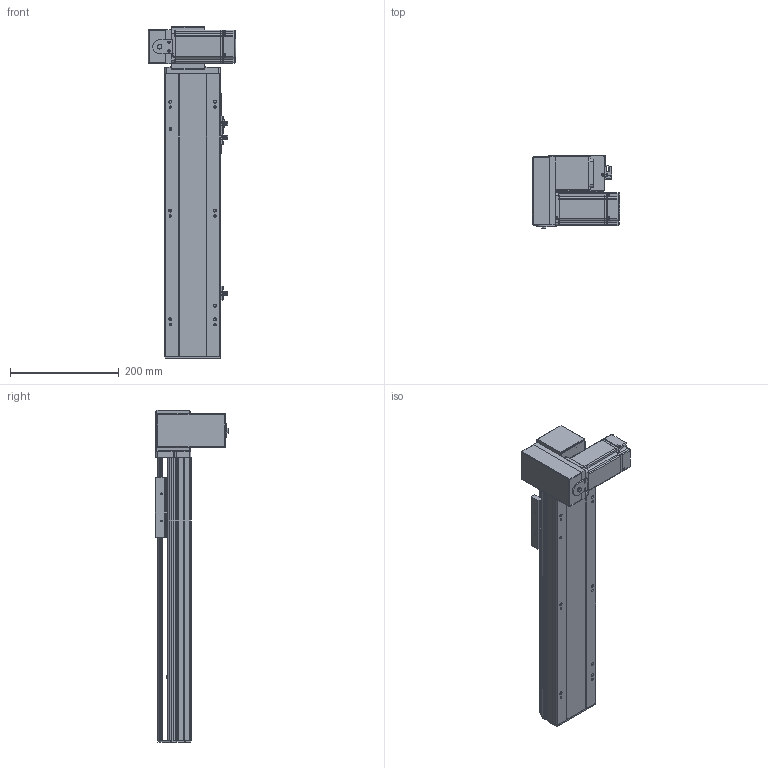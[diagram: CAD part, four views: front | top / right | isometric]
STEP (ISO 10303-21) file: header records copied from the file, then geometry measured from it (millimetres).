
FILE_DESCRIPTION (( 'STEP AP214' ), '1' );
FILE_NAME ('TPT10-L32-300-LD-T10-C4.STEP', '2023-03-02T10:12:00', ( '' ), ( '' ), 'SwSTEP 2.0', 'SolidWorks 2020', '' );
FILE_SCHEMA (( 'AUTOMOTIVE_DESIGN' ));
Length unit declared in the file: millimetre
Products named in the file (12): hexagon socket head cap screws gb_GB_FASTENER_SCREWS_HSHCS M3X6-N; TPT10-L32-300-LD-T10-C4; 葩璃 pm-t65-672^TPT10-L32-LD-T10-C4; 葩璃 TPT10-L-001 菁釱MZ-102A-01^TPT10-L32-LD-T10-C4; hex nuts, style 1-grades ab gb_GB_FASTENER_NUT_SNAB1 M3-N; 葩璃 TPT10-L-007 々湍釱MZ-169x88^TPT10-L32-LD-T10-C4_L; hexagon head bolts-full thread gb_GB_FASTENER_BOLT_STBAB A M5X16-N; 葩璃 TPT10-L-009 萇儂啣^TPT10-L32-LD-T10-C4_100W; 葩璃 TPT10-L-005 賑釱MZ-102A-03^TPT10-L32-LD-T10-C4; 葩璃 TPT10-L-002 奻裔MZ-102A-02^TPT10-L32-LD-T10-C4; 葩璃 侂狟400W^TPT10-L32-LD-T10-C4; 葩璃 侂狟100W^TPT10-L32-LD-T10-C4
Assembly tree (23 placements, depth 2):
  TPT10-L32-300-LD-T10-C4
    葩璃 TPT10-L-001 菁釱MZ-102A-01^TPT10-L32-LD-T10-C4
    葩璃 TPT10-L-002 奻裔MZ-102A-02^TPT10-L32-LD-T10-C4
    葩璃 TPT10-L-007 々湍釱MZ-169x88^TPT10-L32-LD-T10-C4_L
    葩璃 TPT10-L-005 賑釱MZ-102A-03^TPT10-L32-LD-T10-C4
    葩璃 TPT10-L-009 萇儂啣^TPT10-L32-LD-T10-C4_100W
    葩璃 pm-t65-672^TPT10-L32-LD-T10-C4  x3
    葩璃 侂狟100W^TPT10-L32-LD-T10-C4
    葩璃 侂狟400W^TPT10-L32-LD-T10-C4
    hexagon head bolts-full thread gb_GB_FASTENER_BOLT_STBAB A M5X16-N
    hexagon socket head cap screws gb_GB_FASTENER_SCREWS_HSHCS M3X6-N  x6
    hex nuts, style 1-grades ab gb_GB_FASTENER_NUT_SNAB1 M3-N  x6
Bounding box: 160.5 x 134.65 x 610 mm (x, y, z)
Volume: 2482360.3 mm3; surface area: 525930.8 mm2
Topology: 31 solids, 31 shells, 1851 faces, 4833 edges, 3095 vertices
Faces by surface type: plane 1032, cylinder 587, cone 186, bspline 34, torus 12
Entity records: 46159 total; most frequent: CARTESIAN_POINT 9020, DIRECTION 7564, ORIENTED_EDGE 7306, EDGE_CURVE 3653, AXIS2_PLACEMENT_3D 2644, VERTEX_POINT 2386, LINE 2276, VECTOR 2276
